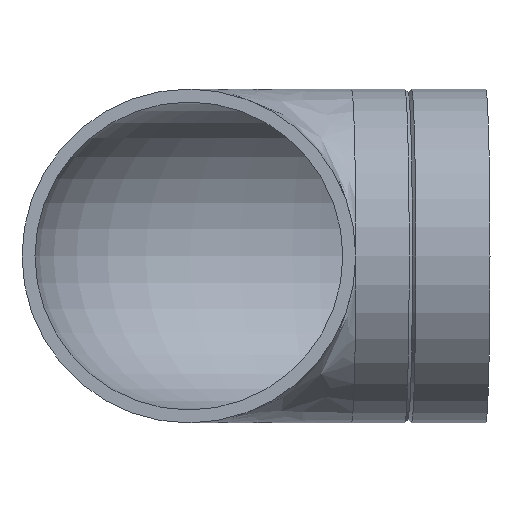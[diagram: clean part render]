
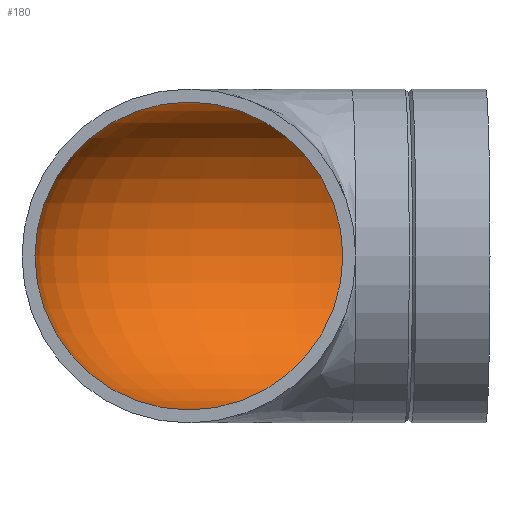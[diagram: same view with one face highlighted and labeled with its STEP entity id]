
A CAD part, front view. The second image highlights one B-rep face of the part: STEP entity #180.
In plain terms, the highlighted toroidal (fillet/blend) face has major radius 45 mm and minor radius 41.5 mm.
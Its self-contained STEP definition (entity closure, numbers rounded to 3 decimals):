
#14=TOROIDAL_SURFACE($,#211,45.,41.5);
#34=FACE_BOUND($,#76,.T.);
#53=FACE_OUTER_BOUND($,#75,.T.);
#75=EDGE_LOOP($,(#152));
#76=EDGE_LOOP($,(#153));
#97=CIRCLE($,#208,41.5);
#99=CIRCLE($,#212,41.5);
#113=VERTEX_POINT($,#354);
#114=VERTEX_POINT($,#359);
#128=EDGE_CURVE($,#113,#113,#97,.T.);
#130=EDGE_CURVE($,#114,#114,#99,.T.);
#152=ORIENTED_EDGE($,*,*,#130,.T.);
#153=ORIENTED_EDGE($,*,*,#128,.F.);
#180=ADVANCED_FACE($,(#53,#34),#14,.F.);
#208=AXIS2_PLACEMENT_3D($,#355,#259,#260);
#211=AXIS2_PLACEMENT_3D($,#358,#265,#266);
#212=AXIS2_PLACEMENT_3D($,#360,#267,#268);
#259=DIRECTION('center_axis',(-1.,-0.026,0.));
#260=DIRECTION('ref_axis',(0.026,-1.,0.));
#265=DIRECTION('center_axis',(0.,0.,-1.));
#266=DIRECTION('ref_axis',(-1.,0.,0.));
#267=DIRECTION('center_axis',(0.,-1.,0.));
#268=DIRECTION('ref_axis',(1.,0.,0.));
#354=CARTESIAN_POINT('',(42.736,121.486,0.));
#355=CARTESIAN_POINT('Origin',(43.822,80.,0.));
#358=CARTESIAN_POINT('Origin',(45.,35.015,0.));
#359=CARTESIAN_POINT('',(-41.5,35.015,0.));
#360=CARTESIAN_POINT('Origin',(0.,35.015,0.));
